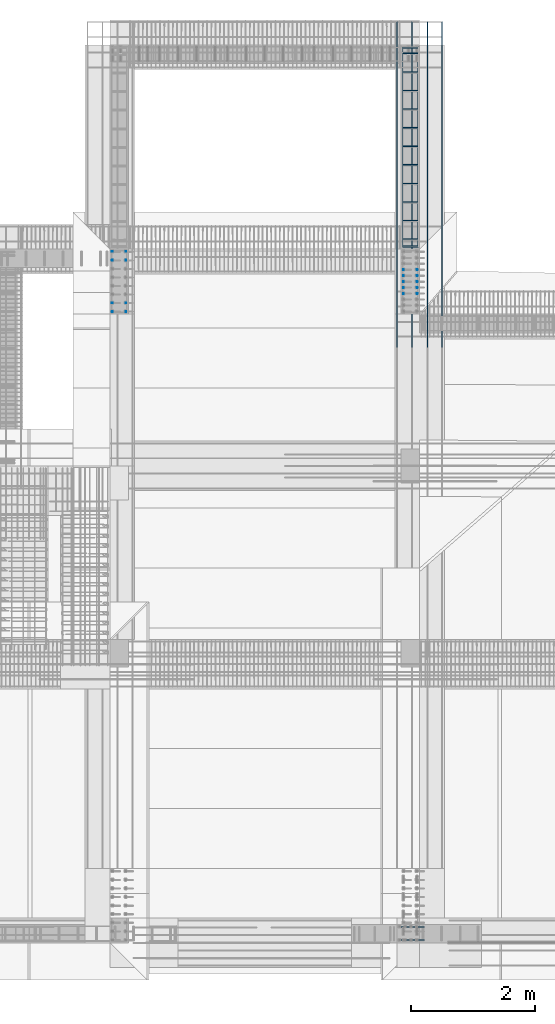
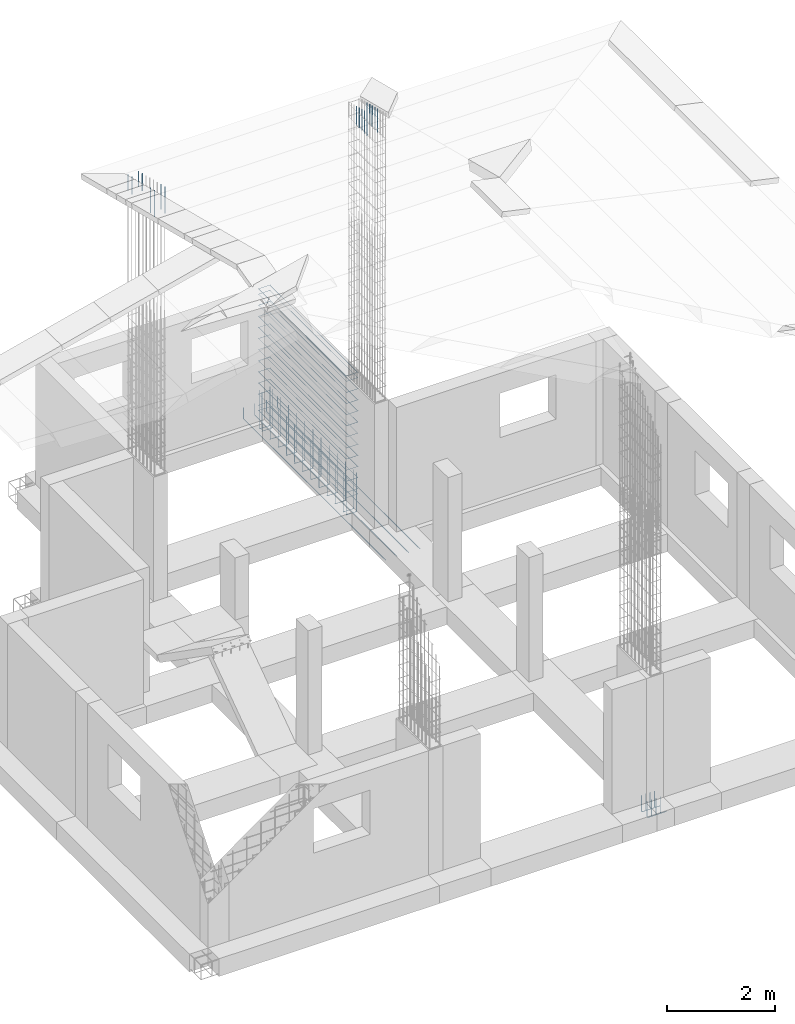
# One storey, part 15 of 15: 13 reinforcing bars.
"""IFC4 building model written with IfcOpenShell, lengths in metres."""

import ifcopenshell
import ifcopenshell.guid

model = None  # the IFC model being written
_history = None  # IfcOwnerHistory: only IFC2X3 demands one
_inside = {}  # id of a spatial element -> (the spatial element, [elements in it])
_under = {}  # id of a project, library or spatial element -> (it, [spatial elements below it])
_declared = {}  # id of a project -> (the project, [libraries it declares])
_typed = {}  # id of a type object -> (the type object, [elements of that type])
_made_of = {}  # id of a material, layer set ... -> (it, [elements and type objects made of it])


def new_model(schema):
    """Start an empty IFC model of exactly this schema.

    Asked for "IFC4X3", IfcOpenShell would pick the latest addendum, in which some entities
    have other attributes; the version numbers below select the first issue.
    IFC2X3 requires an IfcOwnerHistory on every rooted entity: one is made here for all.
    """
    global model, _history
    if schema == "IFC4X3":
        model = ifcopenshell.file(schema_version=(4, 3, 0, 0))
    else:
        model = ifcopenshell.file(schema=schema)
    _inside.clear()
    _under.clear()
    _declared.clear()
    _typed.clear()
    _made_of.clear()
    _history = None
    if model.schema == "IFC2X3":
        org = make("IfcOrganization", Name="unknown")
        user = make(
            "IfcPersonAndOrganization",
            ThePerson=make("IfcPerson", FamilyName="unknown"),
            TheOrganization=org,
        )
        app = make(
            "IfcApplication",
            ApplicationDeveloper=org,
            Version="unknown",
            ApplicationFullName="unknown",
            ApplicationIdentifier="unknown",
        )
        _history = make(
            "IfcOwnerHistory",
            OwningUser=user,
            OwningApplication=app,
            ChangeAction="ADDED",
            CreationDate=0,
        )
    return model


def make(cls, **values):
    """One entity of the class cls with the attributes given. An attribute that is None is left unset."""
    return model.create_entity(
        cls, **{name: value for name, value in values.items() if value is not None}
    )


def entity(cls, *values):
    """Any entity or typed value of the class cls, its attributes in the order of the schema. None: left unset."""
    e = model.create_entity(cls)
    for i, value in enumerate(values):
        if value is not None:
            e[i] = value
    return e


def rooted(cls, **values):
    """An entity with a GlobalId (a new one), such as an element, a storey or a relation."""
    return make(cls, GlobalId=ifcopenshell.guid.new(), OwnerHistory=_history, **values)


def si_unit(unit_type, name, prefix=None):
    """IfcSIUnit, for example si_unit("LENGTHUNIT", "METRE", prefix="MILLI")."""
    return make("IfcSIUnit", UnitType=unit_type, Prefix=prefix, Name=name)


def assignment(units):
    """IfcUnitAssignment: the units of a project."""
    return None if units is None else make("IfcUnitAssignment", Units=units)


def point(xyz):
    """IfcCartesianPoint."""
    return None if xyz is None else make("IfcCartesianPoint", Coordinates=xyz)


def direction(xyz):
    """IfcDirection."""
    return None if xyz is None else make("IfcDirection", DirectionRatios=xyz)


def frame(location, z_axis=None, x_axis=None):
    """IfcAxis2Placement3D, a coordinate frame: its origin and axes. An axis left out is left unset."""
    return make(
        "IfcAxis2Placement3D",
        Location=point(location),
        Axis=direction(z_axis),
        RefDirection=direction(x_axis),
    )


def origin_with_axes():
    """The frame at (0, 0, 0) with the z axis (0, 0, 1) and the x axis (1, 0, 0) written out."""
    return frame((0.0, 0.0, 0.0), z_axis=(0.0, 0.0, 1.0), x_axis=(1.0, 0.0, 0.0))


def place(relative_to, where):
    """IfcLocalPlacement: puts the frame where relative to a parent placement (None: the world)."""
    return make(
        "IfcLocalPlacement", PlacementRelTo=relative_to, RelativePlacement=where
    )


def context(
    kind, dimensions, precision=None, world=None, true_north=None, identifier=None
):
    """IfcGeometricRepresentationContext, for example the 3D "Model" context."""
    return make(
        "IfcGeometricRepresentationContext",
        ContextIdentifier=identifier,
        ContextType=kind,
        CoordinateSpaceDimension=dimensions,
        Precision=precision,
        WorldCoordinateSystem=world,
        TrueNorth=true_north,
    )


def project(units=None, contexts=None):
    """IfcProject with its units and contexts."""
    return rooted(
        "IfcProject",
        Name="project",
        RepresentationContexts=contexts,
        UnitsInContext=assignment(units),
    )


def spatial(cls, under=None, at=None, **own):
    """A site, building, storey or space (cls), placed at a placement, below another one or the project."""
    s = rooted(cls, ObjectPlacement=at, **own)
    if under is not None:
        _under.setdefault(under.id(), (under, []))[1].append(s)
    return s


def shape(context_of_items, identifier, shape_type, items):
    """IfcShapeRepresentation: the items that make up one representation, for example the "Body"."""
    return make(
        "IfcShapeRepresentation",
        ContextOfItems=context_of_items,
        RepresentationIdentifier=identifier,
        RepresentationType=shape_type,
        Items=items,
    )


def source(mapping_origin, context_of_items, identifier, shape_type, items):
    """IfcRepresentationMap: a shape defined once, which mapped items show again and again."""
    return make(
        "IfcRepresentationMap",
        MappingOrigin=mapping_origin,
        MappedRepresentation=shape(context_of_items, identifier, shape_type, items),
    )


def transform(
    local_origin,
    x_axis=None,
    y_axis=None,
    z_axis=None,
    scale=None,
    scale2=None,
    scale3=None,
    uniform=True,
):
    """IfcCartesianTransformationOperator3D, or its non-uniform kind. x_axis, y_axis, z_axis: its Axis1, 2, 3."""
    if uniform:
        return make(
            "IfcCartesianTransformationOperator3D",
            Axis1=direction(x_axis),
            Axis2=direction(y_axis),
            LocalOrigin=point(local_origin),
            Scale=scale,
            Axis3=direction(z_axis),
        )
    return make(
        "IfcCartesianTransformationOperator3DnonUniform",
        Axis1=direction(x_axis),
        Axis2=direction(y_axis),
        LocalOrigin=point(local_origin),
        Scale=scale,
        Axis3=direction(z_axis),
        Scale2=scale2,
        Scale3=scale3,
    )


def mapped(mapping_source, mapping_target):
    """IfcMappedItem: shows the shape of a source again, moved by a transform."""
    return make(
        "IfcMappedItem", MappingSource=mapping_source, MappingTarget=mapping_target
    )


def made_of(thing, what):
    """Note that an element or type object is made of a material, layer set ...; save() writes the relation."""
    if what is not None:
        _made_of.setdefault(what.id(), (what, []))[1].append(thing)
    return thing


def element(
    cls,
    number,
    at=None,
    inside=None,
    cuts=None,
    type_object=None,
    material=None,
    context=None,
    identifier="Body",
    shape_type=None,
    held_by="IfcProductDefinitionShape",
    body=None,
    shapes=None,
    **own,
):
    """One element of the class cls, such as IfcWall. Its Tag is "e" and its number.

    at: its placement. inside: the storey or other place that contains it. cuts: it is an
    opening in that element (IfcRelVoidsElement). A single representation is given by context,
    identifier, shape_type and body (its items); several are given by shapes. held_by: the class
    of the entity that holds the representations. save() writes the other relations.
    """
    e = rooted(cls, Tag="e%d" % number, ObjectPlacement=at, **own)
    if body is not None:
        shapes = [shape(context, identifier, shape_type, body)]
    if shapes is not None:
        e.Representation = make(held_by, Representations=shapes)
    if inside is not None:
        _inside.setdefault(inside.id(), (inside, []))[1].append(e)
    if cuts is not None:
        rooted(
            "IfcRelVoidsElement", RelatingBuildingElement=cuts, RelatedOpeningElement=e
        )
    if type_object is not None:
        _typed.setdefault(type_object.id(), (type_object, []))[1].append(e)
    return made_of(e, material)


def aggregate(whole, parts):
    """IfcRelAggregates: a whole, such as a stair, and the parts it consists of."""
    return rooted("IfcRelAggregates", RelatingObject=whole, RelatedObjects=parts)


def save(model, path):
    """Write the relations noted so far, then the file.

    IfcRelAggregates (storeys below a building ...), IfcRelContainedInSpatialStructure (elements
    in a storey), IfcRelDefinesByType, IfcRelAssociatesMaterial and IfcRelDeclares: one each for
    every whole, place, type object, material and project.
    """
    for whole, parts in _under.values():
        aggregate(whole, parts)
    for where, things in _inside.values():
        rooted(
            "IfcRelContainedInSpatialStructure",
            RelatedElements=things,
            RelatingStructure=where,
        )
    for kind, things in _typed.values():
        rooted("IfcRelDefinesByType", RelatedObjects=things, RelatingType=kind)
    for what, things in _made_of.values():
        rooted("IfcRelAssociatesMaterial", RelatedObjects=things, RelatingMaterial=what)
    for by, libraries in _declared.values():
        rooted("IfcRelDeclares", RelatingContext=by, RelatedDefinitions=libraries)
    model.write(path)


model = new_model("IFC4")

# Units and contexts
model_context = context("Model", 3, precision=1e-05, world=origin_with_axes())
ifc_project = project(units=[si_unit("LENGTHUNIT", "METRE"), si_unit("AREAUNIT", "SQUARE_METRE"), si_unit("VOLUMEUNIT", "CUBIC_METRE"), si_unit("MASSUNIT", "GRAM", prefix="KILO"), si_unit("TIMEUNIT", "SECOND"), si_unit("PLANEANGLEUNIT", "RADIAN"), si_unit("SOLIDANGLEUNIT", "STERADIAN"), si_unit("THERMODYNAMICTEMPERATUREUNIT", "DEGREE_CELSIUS")], contexts=[model_context])

# Site, building, storey
placement_1 = place(None, origin_with_axes())
site = spatial("IfcSite", under=ifc_project, at=placement_1, Name="Italia", CompositionType="ELEMENT")
building = spatial("IfcBuilding", under=site, at=placement_1, Name="Bifamiliare", CompositionType="ELEMENT")
storey = spatial("IfcBuildingStorey", under=building, at=placement_1, Name="Storey 0", CompositionType="ELEMENT", Elevation=0.0)

# Reinforcing bars
shared_shape_1 = source(origin_with_axes(), model_context, "Body", "AdvancedSweptSolid", [
    entity("IfcSweptDiskSolid", entity("IfcIndexedPolyCurve", entity("IfcCartesianPointList3D", [[10.882, 1.443, -0.375], [10.789, 1.443, -0.375], [10.7768, 1.443, -0.372564], [10.7664, 1.443, -0.365627], [10.7594, 1.443, -0.355246], [10.757, 1.443, -0.343], [10.757, 1.443, 0.0]]), [entity("IfcLineIndex", [1, 2]), entity("IfcLineIndex", [2, 3]), entity("IfcLineIndex", [3, 4]), entity("IfcLineIndex", [4, 5]), entity("IfcLineIndex", [5, 6]), entity("IfcLineIndex", [6, 7])], False), 0.008),
])
placement_2 = place(placement_1, origin_with_axes())
reinforcing_bar_1_placement = place(placement_2, origin_with_axes())
element("IfcReinforcingBar", 1, at=reinforcing_bar_1_placement, inside=storey, BarLength=0.485943, CrossSectionArea=0.00020106, NominalDiameter=0.016, context=model_context, shape_type="MappedRepresentation", body=[
    mapped(shared_shape_1, transform((-0.187111, 0.214, 0.0), x_axis=(1.0, 0.0, 0.0), y_axis=(0.0, 1.0, 0.0), z_axis=(0.0, 0.0, 1.0), scale=1.0)),
    mapped(shared_shape_1, transform((-0.280666, 0.214, 0.0), x_axis=(1.0, 0.0, 0.0), y_axis=(0.0, 1.0, 0.0), z_axis=(0.0, 0.0, 1.0), scale=1.0)),
    mapped(shared_shape_1, transform((0.0, 0.214, 0.0), x_axis=(1.0, 0.0, 0.0), y_axis=(0.0, 1.0, 0.0), z_axis=(0.0, 0.0, 1.0), scale=1.0)),
    mapped(shared_shape_1, transform((-0.0935555, 0.214, 0.0), x_axis=(1.0, 0.0, 0.0), y_axis=(0.0, 1.0, 0.0), z_axis=(0.0, 0.0, 1.0), scale=1.0)),
    mapped(shared_shape_1, transform((-0.0935555, 0.0, 0.0), x_axis=(1.0, 0.0, 0.0), y_axis=(0.0, 1.0, 0.0), z_axis=(0.0, 0.0, 1.0), scale=1.0)),
    mapped(shared_shape_1, transform((0.0, 0.0, 0.0), x_axis=(1.0, 0.0, 0.0), y_axis=(0.0, 1.0, 0.0), z_axis=(0.0, 0.0, 1.0), scale=1.0)),
    mapped(shared_shape_1, transform((-0.280666, 0.0, 0.0), x_axis=(1.0, 0.0, 0.0), y_axis=(0.0, 1.0, 0.0), z_axis=(0.0, 0.0, 1.0), scale=1.0)),
    mapped(shared_shape_1, transform((-0.187111, 0.0, 0.0), x_axis=(1.0, 0.0, 0.0), y_axis=(0.0, 1.0, 0.0), z_axis=(0.0, 0.0, 1.0), scale=1.0)),
])
shared_shape_2 = source(origin_with_axes(), model_context, "Body", "AdvancedSweptSolid", [
    entity("IfcSweptDiskSolid", entity("IfcIndexedPolyCurve", entity("IfcCartesianPointList3D", [[6.061, 12.561, 8.63857], [6.061, 12.561, 8.98477]]), [entity("IfcLineIndex", [1, 2])], False), 0.006),
])
reinforcing_bar_2_placement = place(placement_2, origin_with_axes())
element("IfcReinforcingBar", 2, at=reinforcing_bar_2_placement, inside=storey, BarLength=0.346198, CrossSectionArea=0.0001131, NominalDiameter=0.012, context=model_context, shape_type="MappedRepresentation", body=[
    mapped(shared_shape_2, transform((-0.222, 0.0, 0.0), x_axis=(1.0, 0.0, 0.0), y_axis=(0.0, 1.0, 0.0), z_axis=(0.0, 0.0, 1.0), scale=1.0)),
    mapped(shared_shape_2, transform((0.0, 0.0, 0.0), x_axis=(1.0, 0.0, 0.0), y_axis=(0.0, 1.0, 0.0), z_axis=(0.0, 0.0, 1.0), scale=1.0)),
])
shared_shape_3 = source(origin_with_axes(), model_context, "Body", "AdvancedSweptSolid", [
    entity("IfcSweptDiskSolid", entity("IfcIndexedPolyCurve", entity("IfcCartesianPointList3D", [[6.061, 12.4207, 8.63857], [6.061, 12.4207, 9.01991]]), [entity("IfcLineIndex", [1, 2])], False), 0.006),
])
reinforcing_bar_3_placement = place(placement_2, origin_with_axes())
element("IfcReinforcingBar", 3, at=reinforcing_bar_3_placement, inside=storey, BarLength=0.381337, CrossSectionArea=0.0001131, NominalDiameter=0.012, context=model_context, shape_type="MappedRepresentation", body=[
    mapped(shared_shape_3, transform((-0.222, 0.0, 0.0), x_axis=(1.0, 0.0, 0.0), y_axis=(0.0, 1.0, 0.0), z_axis=(0.0, 0.0, 1.0), scale=1.0)),
    mapped(shared_shape_3, transform((0.0, 0.0, 0.0), x_axis=(1.0, 0.0, 0.0), y_axis=(0.0, 1.0, 0.0), z_axis=(0.0, 0.0, 1.0), scale=1.0)),
])
shared_shape_4 = source(origin_with_axes(), model_context, "Body", "AdvancedSweptSolid", [
    entity("IfcSweptDiskSolid", entity("IfcIndexedPolyCurve", entity("IfcCartesianPointList3D", [[6.061, 11.7293, 8.63857], [6.061, 11.7293, 9.1931]]), [entity("IfcLineIndex", [1, 2])], False), 0.006),
])
reinforcing_bar_4_placement = place(placement_2, origin_with_axes())
element("IfcReinforcingBar", 4, at=reinforcing_bar_4_placement, inside=storey, BarLength=0.554531, CrossSectionArea=0.0001131, NominalDiameter=0.012, context=model_context, shape_type="MappedRepresentation", body=[
    mapped(shared_shape_4, transform((-0.222001, 0.0, 0.0), x_axis=(1.0, 0.0, 0.0), y_axis=(0.0, 1.0, 0.0), z_axis=(0.0, 0.0, 1.0), scale=1.0)),
    mapped(shared_shape_4, transform((0.0, 0.0, 0.0), x_axis=(1.0, 0.0, 0.0), y_axis=(0.0, 1.0, 0.0), z_axis=(0.0, 0.0, 1.0), scale=1.0)),
])
shared_shape_5 = source(origin_with_axes(), model_context, "Body", "AdvancedSweptSolid", [
    entity("IfcSweptDiskSolid", entity("IfcIndexedPolyCurve", entity("IfcCartesianPointList3D", [[6.061, 11.589, 8.63857], [6.061, 11.589, 9.22824]]), [entity("IfcLineIndex", [1, 2])], False), 0.006),
])
reinforcing_bar_5_placement = place(placement_2, origin_with_axes())
element("IfcReinforcingBar", 5, at=reinforcing_bar_5_placement, inside=storey, BarLength=0.589671, CrossSectionArea=0.0001131, NominalDiameter=0.012, context=model_context, shape_type="MappedRepresentation", body=[
    mapped(shared_shape_5, transform((-0.222001, 0.0, 0.0), x_axis=(1.0, 0.0, 0.0), y_axis=(0.0, 1.0, 0.0), z_axis=(0.0, 0.0, 1.0), scale=1.0)),
    mapped(shared_shape_5, transform((0.0, 0.0, 0.0), x_axis=(1.0, 0.0, 0.0), y_axis=(0.0, 1.0, 0.0), z_axis=(0.0, 0.0, 1.0), scale=1.0)),
])
shared_shape_6 = source(origin_with_axes(), model_context, "Body", "AdvancedSweptSolid", [
    entity("IfcSweptDiskSolid", entity("IfcIndexedPolyCurve", entity("IfcCartesianPointList3D", [[10.761, 12.2686, 8.63857], [10.761, 12.2686, 9.05801]]), [entity("IfcLineIndex", [1, 2])], False), 0.006),
])
reinforcing_bar_6_placement = place(placement_2, origin_with_axes())
element("IfcReinforcingBar", 6, at=reinforcing_bar_6_placement, inside=storey, BarLength=0.419438, CrossSectionArea=0.0001131, NominalDiameter=0.012, context=model_context, shape_type="MappedRepresentation", body=[
    mapped(shared_shape_6, transform((-0.222, 0.0, 0.0), x_axis=(1.0, 0.0, 0.0), y_axis=(0.0, 1.0, 0.0), z_axis=(0.0, 0.0, 1.0), scale=1.0)),
    mapped(shared_shape_6, transform((0.0, 0.0, 0.0), x_axis=(1.0, 0.0, 0.0), y_axis=(0.0, 1.0, 0.0), z_axis=(0.0, 0.0, 1.0), scale=1.0)),
])
shared_shape_7 = source(origin_with_axes(), model_context, "Body", "AdvancedSweptSolid", [
    entity("IfcSweptDiskSolid", entity("IfcIndexedPolyCurve", entity("IfcCartesianPointList3D", [[10.761, 12.1718, 8.63857], [10.761, 12.1718, 9.08226]]), [entity("IfcLineIndex", [1, 2])], False), 0.006),
])
reinforcing_bar_7_placement = place(placement_2, origin_with_axes())
element("IfcReinforcingBar", 7, at=reinforcing_bar_7_placement, inside=storey, BarLength=0.443686, CrossSectionArea=0.0001131, NominalDiameter=0.012, context=model_context, shape_type="MappedRepresentation", body=[
    mapped(shared_shape_7, transform((-0.222, 0.0, 0.0), x_axis=(1.0, 0.0, 0.0), y_axis=(0.0, 1.0, 0.0), z_axis=(0.0, 0.0, 1.0), scale=1.0)),
    mapped(shared_shape_7, transform((0.0, 0.0, 0.0), x_axis=(1.0, 0.0, 0.0), y_axis=(0.0, 1.0, 0.0), z_axis=(0.0, 0.0, 1.0), scale=1.0)),
])
shared_shape_8 = source(origin_with_axes(), model_context, "Body", "AdvancedSweptSolid", [
    entity("IfcSweptDiskSolid", entity("IfcIndexedPolyCurve", entity("IfcCartesianPointList3D", [[10.761, 12.075, 8.63857], [10.761, 12.075, 9.10651]]), [entity("IfcLineIndex", [1, 2])], False), 0.006),
])
reinforcing_bar_8_placement = place(placement_2, origin_with_axes())
element("IfcReinforcingBar", 8, at=reinforcing_bar_8_placement, inside=storey, BarLength=0.467933, CrossSectionArea=0.0001131, NominalDiameter=0.012, context=model_context, shape_type="MappedRepresentation", body=[
    mapped(shared_shape_8, transform((-0.222, 0.0, 0.0), x_axis=(1.0, 0.0, 0.0), y_axis=(0.0, 1.0, 0.0), z_axis=(0.0, 0.0, 1.0), scale=1.0)),
    mapped(shared_shape_8, transform((0.0, 0.0, 0.0), x_axis=(1.0, 0.0, 0.0), y_axis=(0.0, 1.0, 0.0), z_axis=(0.0, 0.0, 1.0), scale=1.0)),
])
shared_shape_9 = source(origin_with_axes(), model_context, "Body", "AdvancedSweptSolid", [
    entity("IfcSweptDiskSolid", entity("IfcIndexedPolyCurve", entity("IfcCartesianPointList3D", [[10.761, 11.9782, 8.63857], [10.761, 11.9782, 9.13075]]), [entity("IfcLineIndex", [1, 2])], False), 0.006),
])
reinforcing_bar_9_placement = place(placement_2, origin_with_axes())
element("IfcReinforcingBar", 9, at=reinforcing_bar_9_placement, inside=storey, BarLength=0.49218, CrossSectionArea=0.0001131, NominalDiameter=0.012, context=model_context, shape_type="MappedRepresentation", body=[
    mapped(shared_shape_9, transform((-0.222, 0.0, 0.0), x_axis=(1.0, 0.0, 0.0), y_axis=(0.0, 1.0, 0.0), z_axis=(0.0, 0.0, 1.0), scale=1.0)),
    mapped(shared_shape_9, transform((0.0, 0.0, 0.0), x_axis=(1.0, 0.0, 0.0), y_axis=(0.0, 1.0, 0.0), z_axis=(0.0, 0.0, 1.0), scale=1.0)),
])
shared_shape_10 = source(origin_with_axes(), model_context, "Body", "AdvancedSweptSolid", [
    entity("IfcSweptDiskSolid", entity("IfcIndexedPolyCurve", entity("IfcCartesianPointList3D", [[10.761, 11.8814, 8.63857], [10.761, 11.8814, 9.155]]), [entity("IfcLineIndex", [1, 2])], False), 0.006),
])
reinforcing_bar_10_placement = place(placement_2, origin_with_axes())
element("IfcReinforcingBar", 10, at=reinforcing_bar_10_placement, inside=storey, BarLength=0.516428, CrossSectionArea=0.0001131, NominalDiameter=0.012, context=model_context, shape_type="MappedRepresentation", body=[
    mapped(shared_shape_10, transform((-0.222, 0.0, 0.0), x_axis=(1.0, 0.0, 0.0), y_axis=(0.0, 1.0, 0.0), z_axis=(0.0, 0.0, 1.0), scale=1.0)),
    mapped(shared_shape_10, transform((0.0, 0.0, 0.0), x_axis=(1.0, 0.0, 0.0), y_axis=(0.0, 1.0, 0.0), z_axis=(0.0, 0.0, 1.0), scale=1.0)),
])
shared_shape_11 = source(origin_with_axes(), model_context, "Body", "AdvancedSweptSolid", [
    entity("IfcSweptDiskSolid", entity("IfcIndexedPolyCurve", entity("IfcCartesianPointList3D", [[10.541, 15.847, 0.5], [10.541, 15.847, -0.345], [10.5433, 15.847, -0.356481], [10.5498, 15.847, -0.366213], [10.5595, 15.847, -0.372716], [10.571, 15.847, -0.375], [10.767, 15.847, -0.375]]), [entity("IfcLineIndex", [1, 2]), entity("IfcLineIndex", [2, 3]), entity("IfcLineIndex", [3, 4]), entity("IfcLineIndex", [4, 5]), entity("IfcLineIndex", [5, 6]), entity("IfcLineIndex", [6, 7])], False), 0.006),
])
reinforcing_bar_11_placement = place(placement_2, origin_with_axes())
element("IfcReinforcingBar", 11, at=reinforcing_bar_11_placement, inside=storey, BarLength=1.08782, CrossSectionArea=0.0001131, NominalDiameter=0.012, context=model_context, shape_type="MappedRepresentation", body=[
    mapped(shared_shape_11, transform((0.0, -1.585, 0.0), x_axis=(1.0, 0.0, 0.0), y_axis=(0.0, 1.0, 0.0), z_axis=(0.0, 0.0, 1.0), scale=1.0)),
    mapped(shared_shape_11, transform((21.3, 30.409, 0.0), x_axis=(-1.0, 0.0, 0.0), y_axis=(0.0, -1.0, 0.0), z_axis=(0.0, 0.0, 1.0), scale=1.0)),
    mapped(shared_shape_11, transform((21.3, 31.009, 0.0), x_axis=(-1.0, 0.0, 0.0), y_axis=(0.0, -1.0, 0.0), z_axis=(0.0, 0.0, 1.0), scale=1.0)),
    mapped(shared_shape_11, transform((21.3, 30.709, 0.0), x_axis=(-1.0, 0.0, 0.0), y_axis=(0.0, -1.0, 0.0), z_axis=(0.0, 0.0, 1.0), scale=1.0)),
    mapped(shared_shape_11, transform((0.0, -0.985, 0.0), x_axis=(1.0, 0.0, 0.0), y_axis=(0.0, 1.0, 0.0), z_axis=(0.0, 0.0, 1.0), scale=1.0)),
    mapped(shared_shape_11, transform((0.0, -1.285, 0.0), x_axis=(1.0, 0.0, 0.0), y_axis=(0.0, 1.0, 0.0), z_axis=(0.0, 0.0, 1.0), scale=1.0)),
    mapped(shared_shape_11, transform((0.0, -0.684999, 0.0), x_axis=(1.0, 0.0, 0.0), y_axis=(0.0, 1.0, 0.0), z_axis=(0.0, 0.0, 1.0), scale=1.0)),
    mapped(shared_shape_11, transform((21.3, 31.309, 0.0), x_axis=(-1.0, 0.0, 0.0), y_axis=(0.0, -1.0, 0.0), z_axis=(0.0, 0.0, 1.0), scale=1.0)),
    mapped(shared_shape_11, transform((21.3, 31.694, 0.0), x_axis=(-1.0, 0.0, 0.0), y_axis=(0.0, -1.0, 0.0), z_axis=(0.0, 0.0, 1.0), scale=1.0)),
    mapped(shared_shape_11, transform((21.3, 31.609, 0.0), x_axis=(-1.0, 0.0, 0.0), y_axis=(0.0, -1.0, 0.0), z_axis=(0.0, 0.0, 1.0), scale=1.0)),
    mapped(shared_shape_11, transform((0.0, -0.0849991, 0.0), x_axis=(1.0, 0.0, 0.0), y_axis=(0.0, 1.0, 0.0), z_axis=(0.0, 0.0, 1.0), scale=1.0)),
    mapped(shared_shape_11, transform((0.0, -0.384999, 0.0), x_axis=(1.0, 0.0, 0.0), y_axis=(0.0, 1.0, 0.0), z_axis=(0.0, 0.0, 1.0), scale=1.0)),
    mapped(shared_shape_11, transform((0.0, 0.0, 0.0), x_axis=(1.0, 0.0, 0.0), y_axis=(0.0, 1.0, 0.0), z_axis=(0.0, 0.0, 1.0), scale=1.0)),
    mapped(shared_shape_11, transform((21.3, 28.5, 0.0), x_axis=(-1.0, 0.0, 0.0), y_axis=(0.0, -1.0, 0.0), z_axis=(0.0, 0.0, 1.0), scale=1.0)),
    mapped(shared_shape_11, transform((21.3, 28.909, 0.0), x_axis=(-1.0, 0.0, 0.0), y_axis=(0.0, -1.0, 0.0), z_axis=(0.0, 0.0, 1.0), scale=1.0)),
    mapped(shared_shape_11, transform((21.3, 28.609, 0.0), x_axis=(-1.0, 0.0, 0.0), y_axis=(0.0, -1.0, 0.0), z_axis=(0.0, 0.0, 1.0), scale=1.0)),
    mapped(shared_shape_11, transform((0.0, -3.085, 0.0), x_axis=(1.0, 0.0, 0.0), y_axis=(0.0, 1.0, 0.0), z_axis=(0.0, 0.0, 1.0), scale=1.0)),
    mapped(shared_shape_11, transform((0.0, -3.194, 0.0), x_axis=(1.0, 0.0, 0.0), y_axis=(0.0, 1.0, 0.0), z_axis=(0.0, 0.0, 1.0), scale=1.0)),
    mapped(shared_shape_11, transform((0.0, -2.785, 0.0), x_axis=(1.0, 0.0, 0.0), y_axis=(0.0, 1.0, 0.0), z_axis=(0.0, 0.0, 1.0), scale=1.0)),
    mapped(shared_shape_11, transform((21.3, 29.209, 0.0), x_axis=(-1.0, 0.0, 0.0), y_axis=(0.0, -1.0, 0.0), z_axis=(0.0, 0.0, 1.0), scale=1.0)),
    mapped(shared_shape_11, transform((21.3, 29.809, 0.0), x_axis=(-1.0, 0.0, 0.0), y_axis=(0.0, -1.0, 0.0), z_axis=(0.0, 0.0, 1.0), scale=1.0)),
    mapped(shared_shape_11, transform((21.3, 29.509, 0.0), x_axis=(-1.0, 0.0, 0.0), y_axis=(0.0, -1.0, 0.0), z_axis=(0.0, 0.0, 1.0), scale=1.0)),
    mapped(shared_shape_11, transform((0.0, -2.185, 0.0), x_axis=(1.0, 0.0, 0.0), y_axis=(0.0, 1.0, 0.0), z_axis=(0.0, 0.0, 1.0), scale=1.0)),
    mapped(shared_shape_11, transform((0.0, -2.485, 0.0), x_axis=(1.0, 0.0, 0.0), y_axis=(0.0, 1.0, 0.0), z_axis=(0.0, 0.0, 1.0), scale=1.0)),
    mapped(shared_shape_11, transform((0.0, -1.885, 0.0), x_axis=(1.0, 0.0, 0.0), y_axis=(0.0, 1.0, 0.0), z_axis=(0.0, 0.0, 1.0), scale=1.0)),
    mapped(shared_shape_11, transform((21.3, 30.109, 0.0), x_axis=(-1.0, 0.0, 0.0), y_axis=(0.0, -1.0, 0.0), z_axis=(0.0, 0.0, 1.0), scale=1.0)),
])
shared_shape_12 = source(origin_with_axes(), model_context, "Body", "AdvancedSweptSolid", [
    entity("IfcSweptDiskSolid", entity("IfcIndexedPolyCurve", entity("IfcCartesianPointList3D", [[10.52, 15.87, 0.03], [10.76, 15.87, 0.03], [10.7638, 15.8692, 0.03], [10.7671, 15.8671, 0.03], [10.7692, 15.8638, 0.03], [10.77, 15.86, 0.03], [10.77, 12.64, 0.03], [10.7692, 12.6362, 0.03], [10.7671, 12.6329, 0.03], [10.7638, 12.6308, 0.03], [10.76, 12.63, 0.03], [10.52, 12.63, 0.03]]), [entity("IfcLineIndex", [1, 2]), entity("IfcLineIndex", [2, 3]), entity("IfcLineIndex", [3, 4]), entity("IfcLineIndex", [4, 5]), entity("IfcLineIndex", [5, 6]), entity("IfcLineIndex", [6, 7]), entity("IfcLineIndex", [7, 8]), entity("IfcLineIndex", [8, 9]), entity("IfcLineIndex", [9, 10]), entity("IfcLineIndex", [10, 11]), entity("IfcLineIndex", [11, 12])], False), 0.005),
])
reinforcing_bar_12_placement = place(placement_2, origin_with_axes())
element("IfcReinforcingBar", 12, at=reinforcing_bar_12_placement, inside=storey, BarLength=3.73121, CrossSectionArea=7.854e-05, NominalDiameter=0.01, context=model_context, shape_type="MappedRepresentation", body=[
    mapped(shared_shape_12, transform((21.3, 28.5, 0.0), x_axis=(-1.0, 0.0, 0.0), y_axis=(0.0, -1.0, 0.0), z_axis=(0.0, 0.0, 1.0), scale=1.0)),
    mapped(shared_shape_12, transform((0.0, 0.0, 1.37), x_axis=(1.0, 0.0, 0.0), y_axis=(0.0, 1.0, 0.0), z_axis=(0.0, 0.0, 1.0), scale=1.0)),
    mapped(shared_shape_12, transform((0.0, 0.0, 2.37), x_axis=(1.0, 0.0, 0.0), y_axis=(0.0, 1.0, 0.0), z_axis=(0.0, 0.0, 1.0), scale=1.0)),
    mapped(shared_shape_12, transform((0.0, 0.0, 0.87), x_axis=(1.0, 0.0, 0.0), y_axis=(0.0, 1.0, 0.0), z_axis=(0.0, 0.0, 1.0), scale=1.0)),
    mapped(shared_shape_12, transform((0.0, 0.0, 0.62), x_axis=(1.0, 0.0, 0.0), y_axis=(0.0, 1.0, 0.0), z_axis=(0.0, 0.0, 1.0), scale=1.0)),
    mapped(shared_shape_12, transform((0.0, 0.0, 2.74), x_axis=(1.0, 0.0, 0.0), y_axis=(0.0, 1.0, 0.0), z_axis=(0.0, 0.0, 1.0), scale=1.0)),
    mapped(shared_shape_12, transform((0.0, 0.0, 1.12), x_axis=(1.0, 0.0, 0.0), y_axis=(0.0, 1.0, 0.0), z_axis=(0.0, 0.0, 1.0), scale=1.0)),
    mapped(shared_shape_12, transform((0.0, 0.0, 2.62), x_axis=(1.0, 0.0, 0.0), y_axis=(0.0, 1.0, 0.0), z_axis=(0.0, 0.0, 1.0), scale=1.0)),
    mapped(shared_shape_12, transform((0.0, 0.0, 1.62), x_axis=(1.0, 0.0, 0.0), y_axis=(0.0, 1.0, 0.0), z_axis=(0.0, 0.0, 1.0), scale=1.0)),
    mapped(shared_shape_12, transform((0.0, 0.0, 0.12), x_axis=(1.0, 0.0, 0.0), y_axis=(0.0, 1.0, 0.0), z_axis=(0.0, 0.0, 1.0), scale=1.0)),
    mapped(shared_shape_12, transform((0.0, 0.0, 0.0), x_axis=(1.0, 0.0, 0.0), y_axis=(0.0, 1.0, 0.0), z_axis=(0.0, 0.0, 1.0), scale=1.0)),
    mapped(shared_shape_12, transform((21.3, 28.5, 0.12), x_axis=(-1.0, 0.0, 0.0), y_axis=(0.0, -1.0, 0.0), z_axis=(0.0, 0.0, 1.0), scale=1.0)),
    mapped(shared_shape_12, transform((21.3, 28.5, 0.37), x_axis=(-1.0, 0.0, 0.0), y_axis=(0.0, -1.0, 0.0), z_axis=(0.0, 0.0, 1.0), scale=1.0)),
    mapped(shared_shape_12, transform((0.0, 0.0, 2.12), x_axis=(1.0, 0.0, 0.0), y_axis=(0.0, 1.0, 0.0), z_axis=(0.0, 0.0, 1.0), scale=1.0)),
    mapped(shared_shape_12, transform((0.0, 0.0, 0.37), x_axis=(1.0, 0.0, 0.0), y_axis=(0.0, 1.0, 0.0), z_axis=(0.0, 0.0, 1.0), scale=1.0)),
    mapped(shared_shape_12, transform((21.3, 28.5, 1.37), x_axis=(-1.0, 0.0, 0.0), y_axis=(0.0, -1.0, 0.0), z_axis=(0.0, 0.0, 1.0), scale=1.0)),
    mapped(shared_shape_12, transform((21.3, 28.5, 1.62), x_axis=(-1.0, 0.0, 0.0), y_axis=(0.0, -1.0, 0.0), z_axis=(0.0, 0.0, 1.0), scale=1.0)),
    mapped(shared_shape_12, transform((21.3, 28.5, 1.87), x_axis=(-1.0, 0.0, 0.0), y_axis=(0.0, -1.0, 0.0), z_axis=(0.0, 0.0, 1.0), scale=1.0)),
    mapped(shared_shape_12, transform((21.3, 28.5, 1.12), x_axis=(-1.0, 0.0, 0.0), y_axis=(0.0, -1.0, 0.0), z_axis=(0.0, 0.0, 1.0), scale=1.0)),
    mapped(shared_shape_12, transform((21.3, 28.5, 0.62), x_axis=(-1.0, 0.0, 0.0), y_axis=(0.0, -1.0, 0.0), z_axis=(0.0, 0.0, 1.0), scale=1.0)),
    mapped(shared_shape_12, transform((21.3, 28.5, 0.87), x_axis=(-1.0, 0.0, 0.0), y_axis=(0.0, -1.0, 0.0), z_axis=(0.0, 0.0, 1.0), scale=1.0)),
    mapped(shared_shape_12, transform((0.0, 0.0, 1.87), x_axis=(1.0, 0.0, 0.0), y_axis=(0.0, 1.0, 0.0), z_axis=(0.0, 0.0, 1.0), scale=1.0)),
    mapped(shared_shape_12, transform((21.3, 28.5, 2.37), x_axis=(-1.0, 0.0, 0.0), y_axis=(0.0, -1.0, 0.0), z_axis=(0.0, 0.0, 1.0), scale=1.0)),
    mapped(shared_shape_12, transform((21.3, 28.5, 2.74), x_axis=(-1.0, 0.0, 0.0), y_axis=(0.0, -1.0, 0.0), z_axis=(0.0, 0.0, 1.0), scale=1.0)),
    mapped(shared_shape_12, transform((21.3, 28.5, 2.62), x_axis=(-1.0, 0.0, 0.0), y_axis=(0.0, -1.0, 0.0), z_axis=(0.0, 0.0, 1.0), scale=1.0)),
    mapped(shared_shape_12, transform((21.3, 28.5, 2.12), x_axis=(-1.0, 0.0, 0.0), y_axis=(0.0, -1.0, 0.0), z_axis=(0.0, 0.0, 1.0), scale=1.0)),
])
shared_shape_13 = source(origin_with_axes(), model_context, "Body", "AdvancedSweptSolid", [
    entity("IfcSweptDiskSolid", entity("IfcIndexedPolyCurve", entity("IfcCartesianPointList3D", [[11.164, 11.015, -0.364], [11.164, 11.5408, -0.364], [11.164, 16.255, -0.364], [11.164, 16.2588, -0.363239], [11.164, 16.2621, -0.361071], [11.164, 16.2642, -0.357827], [11.164, 16.265, -0.354], [11.164, 16.265, -0.114]]), [entity("IfcLineIndex", [1, 2]), entity("IfcLineIndex", [2, 3]), entity("IfcLineIndex", [3, 4]), entity("IfcLineIndex", [4, 5]), entity("IfcLineIndex", [5, 6]), entity("IfcLineIndex", [6, 7]), entity("IfcLineIndex", [7, 8])], False), 0.008),
])
reinforcing_bar_13_placement = place(placement_2, origin_with_axes())
element("IfcReinforcingBar", 13, at=reinforcing_bar_13_placement, inside=storey, BarLength=5.49561, CrossSectionArea=0.00020106, NominalDiameter=0.016, context=model_context, shape_type="MappedRepresentation", body=[
    mapped(shared_shape_13, transform((-0.728, 0.0, 0.0), x_axis=(1.0, 0.0, 0.0), y_axis=(0.0, 1.0, 0.0), z_axis=(0.0, 0.0, 1.0), scale=1.0)),
    mapped(shared_shape_13, transform((0.0, 0.0, 0.0), x_axis=(1.0, 0.0, 0.0), y_axis=(0.0, 1.0, 0.0), z_axis=(0.0, 0.0, 1.0), scale=1.0)),
    mapped(shared_shape_13, transform((-0.488, 0.0, 0.0), x_axis=(1.0, 0.0, 0.0), y_axis=(0.0, 1.0, 0.0), z_axis=(0.0, 0.0, 1.0), scale=1.0)),
    mapped(shared_shape_13, transform((-0.24, 0.0, 0.0), x_axis=(1.0, 0.0, 0.0), y_axis=(0.0, 1.0, 0.0), z_axis=(0.0, 0.0, 1.0), scale=1.0)),
])

save(model, "model.ifc")
